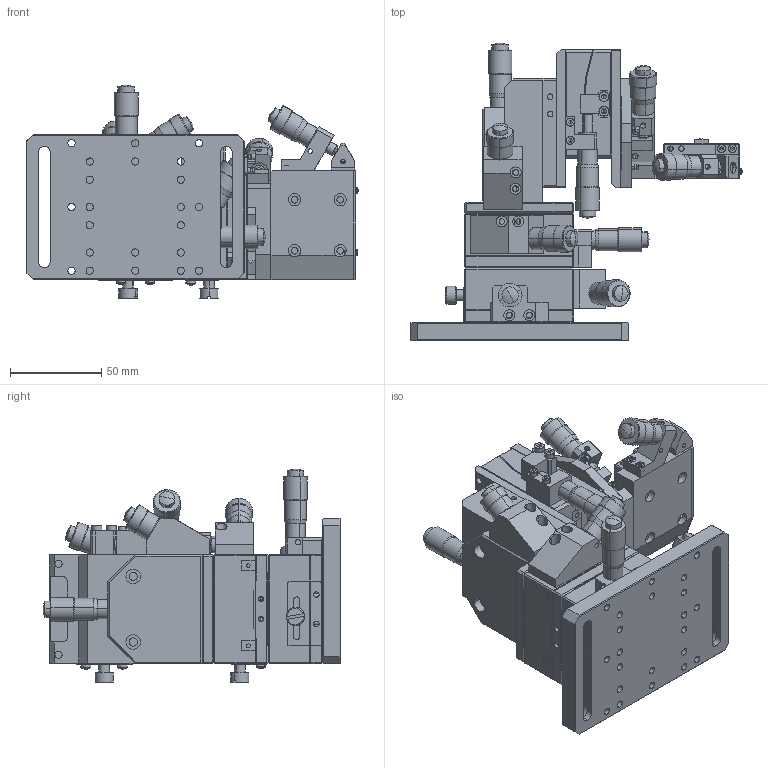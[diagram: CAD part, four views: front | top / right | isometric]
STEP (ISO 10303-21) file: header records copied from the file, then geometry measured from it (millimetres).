
FILE_DESCRIPTION (( 'STEP AP214' ), '1' );
FILE_NAME ('HM6-L.STEP', '2019-08-27T14:40:40', ( '' ), ( '' ), 'SwSTEP 2.0', 'SolidWorks 2016', '' );
FILE_SCHEMA (( 'AUTOMOTIVE_DESIGN' ));
Length unit declared in the file: millimetre
Products named in the file (1): HM6-L
Bounding box: 182.27 x 163.5 x 117.45 mm (x, y, z)
Surface area: 264822.2 mm2 (no closed solid volume)
Topology: 0 solids, 98 shells, 2399 faces, 6321 edges, 4101 vertices
Faces by surface type: plane 1176, cylinder 863, cone 206, torus 94, sphere 48, bspline 12
Entity records: 101985 total; most frequent: CARTESIAN_POINT 14171, DIRECTION 13479, ORIENTED_EDGE 11654, EDGE_CURVE 6267, AXIS2_PLACEMENT_3D 5061, VERTEX_POINT 4101, VECTOR 3357, LINE 3357
